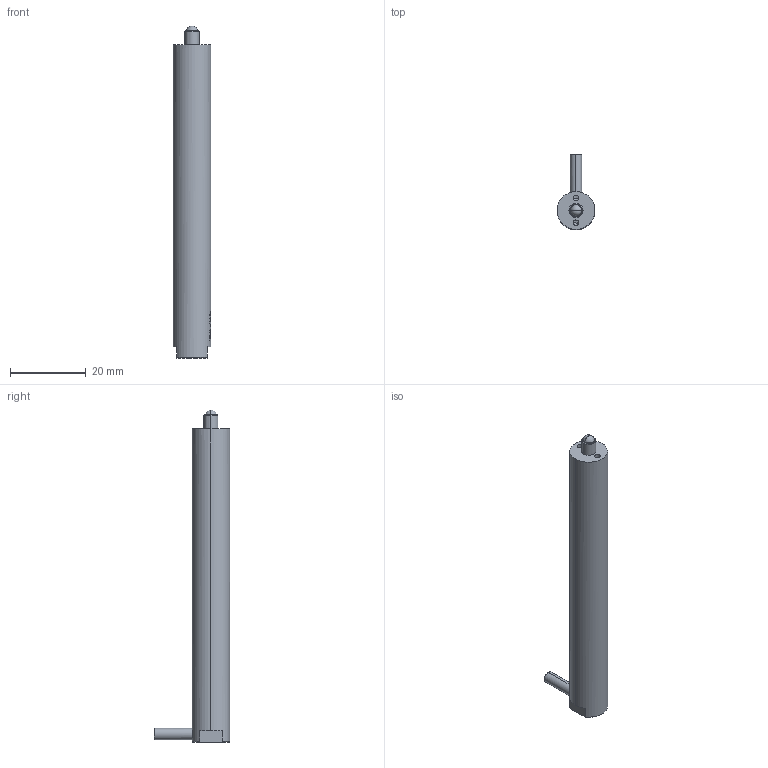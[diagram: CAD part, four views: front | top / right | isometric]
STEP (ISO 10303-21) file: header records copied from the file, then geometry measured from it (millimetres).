
FILE_DESCRIPTION (( 'STEP AP203' ), '1' );
FILE_NAME ('80VS10球头.STEP', '2024-12-10T06:32:06', ( 'daohangxitong.com' ), ( 'daohangxitong.com' ), 'SwSTEP 2.0', 'SolidWorks 2016', '' );
FILE_SCHEMA (( 'CONFIG_CONTROL_DESIGN' ));
Products named in the file (1): 80VS10球头
Bounding box: 10 x 20 x 87.5 mm (x, y, z)
Volume: 6539.2 mm3; surface area: 2954.5 mm2
Topology: 1 solids, 1 shells, 733 faces, 2086 edges, 1383 vertices
Faces by surface type: bspline 634, cylinder 49, plane 36, cone 12, sphere 2
Entity records: 41526 total; most frequent: CARTESIAN_POINT 28091, ORIENTED_EDGE 4160, EDGE_CURVE 2080, B_SPLINE_CURVE_WITH_KNOTS 1947, VERTEX_POINT 1383, EDGE_LOOP 767, ADVANCED_FACE 733, FACE_OUTER_BOUND 733
